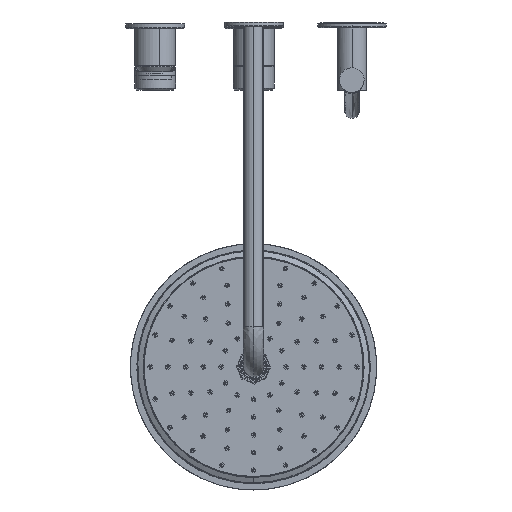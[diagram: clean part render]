
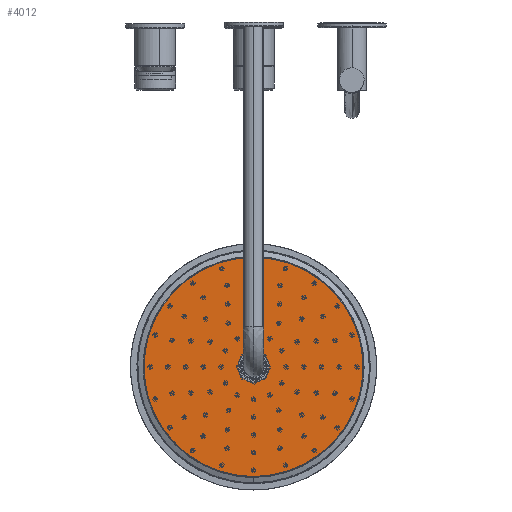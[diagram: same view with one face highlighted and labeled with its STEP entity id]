
A CAD part, top view. The second image highlights one B-rep face of the part: STEP entity #4012.
In plain terms, the highlighted planar face has unit normal (0, 0, 1).
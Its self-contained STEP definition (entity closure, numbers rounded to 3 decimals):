
#1749=FACE_BOUND('',#9051,.T.);
#4012=ADVANCED_FACE('',(#6275,#1749),#32497,.T.);
#6275=FACE_OUTER_BOUND('',#9050,.T.);
#9050=EDGE_LOOP('',(#18791,#18792));
#9051=EDGE_LOOP('',(#18793,#18794));
#18791=ORIENTED_EDGE('',*,*,#23807,.F.);
#18792=ORIENTED_EDGE('',*,*,#23781,.F.);
#18793=ORIENTED_EDGE('',*,*,#23802,.F.);
#18794=ORIENTED_EDGE('',*,*,#23786,.F.);
#23781=EDGE_CURVE('',#31932,#31929,#28800,.T.);
#23786=EDGE_CURVE('',#31938,#31939,#28805,.T.);
#23802=EDGE_CURVE('',#31939,#31938,#28821,.T.);
#23807=EDGE_CURVE('',#31929,#31932,#28826,.T.);
#28800=(
BOUNDED_CURVE()
B_SPLINE_CURVE(3,(#77740,#77741,#77742,#77743),.UNSPECIFIED.,.F.,.F.)
B_SPLINE_CURVE_WITH_KNOTS((4,4),(-673.381,0.),
 .UNSPECIFIED.)
CURVE()
GEOMETRIC_REPRESENTATION_ITEM()
RATIONAL_B_SPLINE_CURVE((1.,0.333,0.333,1.))
REPRESENTATION_ITEM('')
);
#28805=(
BOUNDED_CURVE()
B_SPLINE_CURVE(2,(#77758,#77759,#77760,#77761,#77762),.UNSPECIFIED.,.F.,
 .F.)
B_SPLINE_CURVE_WITH_KNOTS((3,2,3),(1.571,3.142,4.712),
 .UNSPECIFIED.)
CURVE()
GEOMETRIC_REPRESENTATION_ITEM()
RATIONAL_B_SPLINE_CURVE((1.,0.707,1.,0.707,1.))
REPRESENTATION_ITEM('')
);
#28821=(
BOUNDED_CURVE()
B_SPLINE_CURVE(2,(#77816,#77817,#77818,#77819,#77820),.UNSPECIFIED.,.F.,
 .F.)
B_SPLINE_CURVE_WITH_KNOTS((3,2,3),(1.571,3.142,4.712),
 .UNSPECIFIED.)
CURVE()
GEOMETRIC_REPRESENTATION_ITEM()
RATIONAL_B_SPLINE_CURVE((1.,0.707,1.,0.707,1.))
REPRESENTATION_ITEM('')
);
#28826=(
BOUNDED_CURVE()
B_SPLINE_CURVE(3,(#77840,#77841,#77842,#77843),.UNSPECIFIED.,.F.,.F.)
B_SPLINE_CURVE_WITH_KNOTS((4,4),(-673.381,0.),
 .UNSPECIFIED.)
CURVE()
GEOMETRIC_REPRESENTATION_ITEM()
RATIONAL_B_SPLINE_CURVE((1.,0.333,0.333,1.))
REPRESENTATION_ITEM('')
);
#31929=VERTEX_POINT('',#77692);
#31932=VERTEX_POINT('',#77695);
#31938=VERTEX_POINT('',#77701);
#31939=VERTEX_POINT('',#77702);
#32497=PLANE('',#34816);
#34816=AXIS2_PLACEMENT_3D('',#77683,#36214,$);
#36214=DIRECTION('',(0.,0.,1.));
#77683=CARTESIAN_POINT('',(-222.611,-461.31,2005.642));
#77692=CARTESIAN_POINT('',(0.,-461.3,2005.642));
#77695=CARTESIAN_POINT('',(0.,-238.7,2005.642));
#77701=CARTESIAN_POINT('',(0.,-364.1,2005.642));
#77702=CARTESIAN_POINT('',(0.,-335.9,2005.642));
#77740=CARTESIAN_POINT('',(0.,-238.7,2005.642));
#77741=CARTESIAN_POINT('',(222.601,-238.7,2005.642));
#77742=CARTESIAN_POINT('',(222.601,-461.3,2005.642));
#77743=CARTESIAN_POINT('',(0.,-461.3,2005.642));
#77758=CARTESIAN_POINT('',(0.,-364.1,2005.642));
#77759=CARTESIAN_POINT('',(14.1,-364.1,2005.642));
#77760=CARTESIAN_POINT('',(14.1,-350.,2005.642));
#77761=CARTESIAN_POINT('',(14.1,-335.9,2005.642));
#77762=CARTESIAN_POINT('',(0.,-335.9,2005.642));
#77816=CARTESIAN_POINT('',(0.,-335.9,2005.642));
#77817=CARTESIAN_POINT('',(-14.1,-335.9,2005.642));
#77818=CARTESIAN_POINT('',(-14.1,-350.,2005.642));
#77819=CARTESIAN_POINT('',(-14.1,-364.1,2005.642));
#77820=CARTESIAN_POINT('',(0.,-364.1,2005.642));
#77840=CARTESIAN_POINT('',(0.,-461.3,2005.642));
#77841=CARTESIAN_POINT('',(-222.601,-461.3,2005.642));
#77842=CARTESIAN_POINT('',(-222.601,-238.7,2005.642));
#77843=CARTESIAN_POINT('',(0.,-238.7,2005.642));
